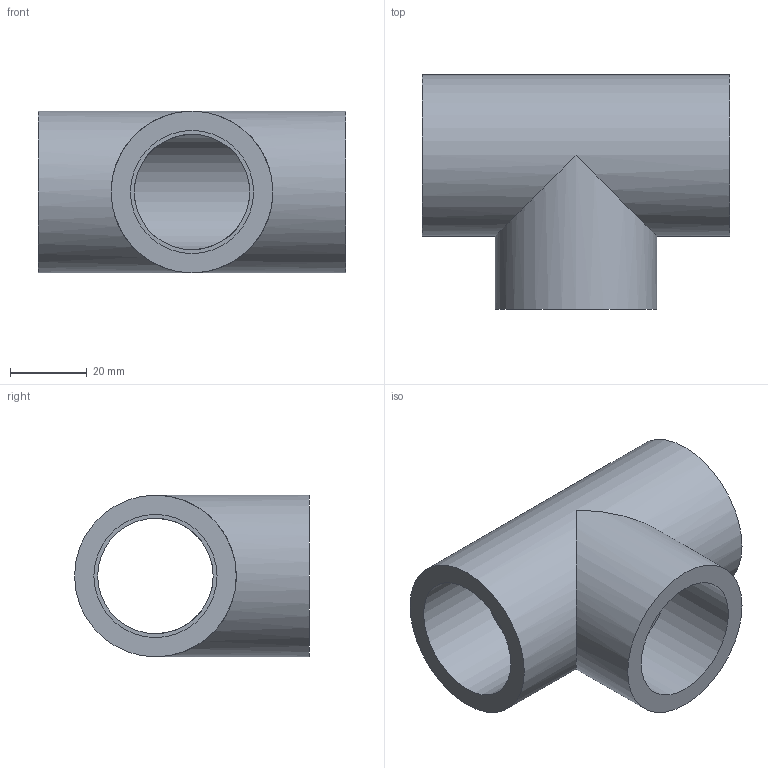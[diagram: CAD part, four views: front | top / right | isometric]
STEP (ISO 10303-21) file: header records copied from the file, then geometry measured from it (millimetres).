
FILE_DESCRIPTION(/* description */ ('PVC ti a 90° incollaggio metrico'),/* implementation_level */ '2;1');
FILE_NAME(/* name */ 'C:\Users\POLYPIPE\Desktop\DATASET INVENTOR\LIBRERIA EFFAST\RACCORDI 3DxWEB\RDR\3D_RDRTID\3D_RDRTID0320.stp',/* time_stamp */ '2018-01-19T15:37:58+01:00',/* author */ ('POLYPIPE'),/* organization */ ('Polypipe Italia s.r.l.'),/* preprocessor_version */ 'ST-DEVELOPER v16.1',/* originating_system */ 'Autodesk Inventor 2016',/* authorisation */ '');
FILE_SCHEMA (('CONFIG_CONTROL_DESIGN'));
Length unit declared in the file: millimetre
Products named in the file (1): 3D_RDRTID
Bounding box: 80 x 61 x 42 mm (x, y, z)
Volume: 59306.4 mm3; surface area: 24265.8 mm2
Topology: 1 solids, 1 shells, 13 faces, 25 edges, 18 vertices
Faces by surface type: cylinder 7, plane 6
Full cylindrical faces by diameter (mm): 30 x2, 32 x3, 42 x2
Entity records: 326 total; most frequent: DIRECTION 60, CARTESIAN_POINT 46, ORIENTED_EDGE 32, AXIS2_PLACEMENT_3D 30, EDGE_LOOP 28, VERTEX_POINT 16, EDGE_CURVE 16, FACE_BOUND 15
